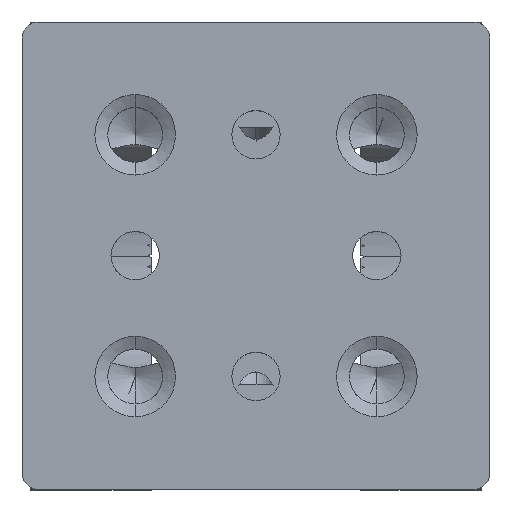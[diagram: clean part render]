
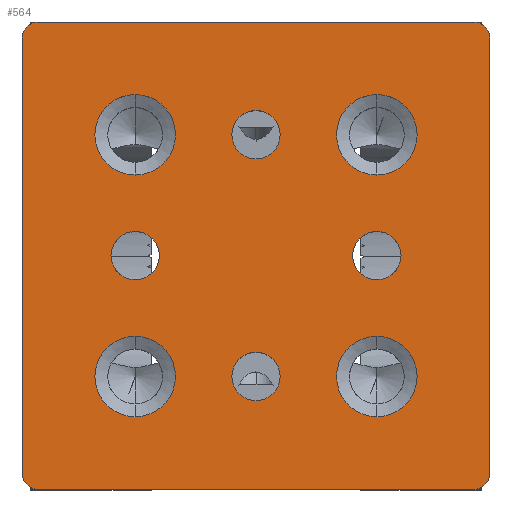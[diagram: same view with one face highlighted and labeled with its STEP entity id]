
A CAD part, top view. The second image highlights one B-rep face of the part: STEP entity #564.
In plain terms, the highlighted planar face has unit normal (0, 0, 1).
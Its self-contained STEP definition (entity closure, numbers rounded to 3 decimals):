
#77=CARTESIAN_POINT('Vertex',(-29.,-27.,30.)) ;
#80=CARTESIAN_POINT('Line Origine',(-29.,0.,30.)) ;
#84=CARTESIAN_POINT('Vertex',(-29.,27.,30.)) ;
#127=CARTESIAN_POINT('Vertex',(27.,29.,30.)) ;
#141=CARTESIAN_POINT('Vertex',(-27.,29.,30.)) ;
#144=CARTESIAN_POINT('Line Origine',(0.,29.,30.)) ;
#329=CARTESIAN_POINT('Vertex',(29.,27.,30.)) ;
#332=CARTESIAN_POINT('Line Origine',(29.,0.,30.)) ;
#336=CARTESIAN_POINT('Vertex',(29.,-27.,30.)) ;
#363=CARTESIAN_POINT('Vertex',(27.,-29.,30.)) ;
#366=CARTESIAN_POINT('Line Origine',(0.,-29.,30.)) ;
#370=CARTESIAN_POINT('Vertex',(-27.,-29.,30.)) ;
#385=CARTESIAN_POINT('Axis2P3D Location',(29.,29.,30.)) ;
#390=CARTESIAN_POINT('Axis2P3D Location',(27.,27.,30.)) ;
#395=CARTESIAN_POINT('Axis2P3D Location',(-27.,27.,30.)) ;
#400=CARTESIAN_POINT('Axis2P3D Location',(-27.,-27.,30.)) ;
#405=CARTESIAN_POINT('Axis2P3D Location',(27.,-27.,30.)) ;
#420=CARTESIAN_POINT('Axis2P3D Location',(-15.,-15.,30.)) ;
#424=CARTESIAN_POINT('Vertex',(-15.,-10.,30.)) ;
#426=CARTESIAN_POINT('Vertex',(-15.,-20.,30.)) ;
#429=CARTESIAN_POINT('Axis2P3D Location',(-15.,-15.,30.)) ;
#438=CARTESIAN_POINT('Axis2P3D Location',(15.,-15.,30.)) ;
#442=CARTESIAN_POINT('Vertex',(15.,-10.,30.)) ;
#444=CARTESIAN_POINT('Vertex',(15.,-20.,30.)) ;
#447=CARTESIAN_POINT('Axis2P3D Location',(15.,-15.,30.)) ;
#456=CARTESIAN_POINT('Axis2P3D Location',(-15.,15.,30.)) ;
#460=CARTESIAN_POINT('Vertex',(-15.,20.,30.)) ;
#462=CARTESIAN_POINT('Vertex',(-15.,10.,30.)) ;
#465=CARTESIAN_POINT('Axis2P3D Location',(-15.,15.,30.)) ;
#474=CARTESIAN_POINT('Axis2P3D Location',(15.,15.,30.)) ;
#478=CARTESIAN_POINT('Vertex',(15.,20.,30.)) ;
#480=CARTESIAN_POINT('Vertex',(15.,10.,30.)) ;
#483=CARTESIAN_POINT('Axis2P3D Location',(15.,15.,30.)) ;
#492=CARTESIAN_POINT('Axis2P3D Location',(0.,15.,30.)) ;
#496=CARTESIAN_POINT('Vertex',(0.,12.,30.)) ;
#498=CARTESIAN_POINT('Vertex',(0.,18.,30.)) ;
#501=CARTESIAN_POINT('Axis2P3D Location',(0.,15.,30.)) ;
#510=CARTESIAN_POINT('Axis2P3D Location',(0.,-15.,30.)) ;
#514=CARTESIAN_POINT('Vertex',(0.,-18.,30.)) ;
#516=CARTESIAN_POINT('Vertex',(0.,-12.,30.)) ;
#519=CARTESIAN_POINT('Axis2P3D Location',(0.,-15.,30.)) ;
#528=CARTESIAN_POINT('Axis2P3D Location',(-15.,0.,30.)) ;
#532=CARTESIAN_POINT('Vertex',(-15.,-3.,30.)) ;
#534=CARTESIAN_POINT('Vertex',(-15.,3.,30.)) ;
#537=CARTESIAN_POINT('Axis2P3D Location',(-15.,0.,30.)) ;
#546=CARTESIAN_POINT('Axis2P3D Location',(15.,0.,30.)) ;
#550=CARTESIAN_POINT('Vertex',(15.,-3.,30.)) ;
#552=CARTESIAN_POINT('Vertex',(15.,3.,30.)) ;
#555=CARTESIAN_POINT('Axis2P3D Location',(15.,0.,30.)) ;
#81=DIRECTION('Vector Direction',(0.,1.,0.)) ;
#145=DIRECTION('Vector Direction',(-1.,0.,0.)) ;
#333=DIRECTION('Vector Direction',(0.,1.,0.)) ;
#367=DIRECTION('Vector Direction',(-1.,0.,0.)) ;
#386=DIRECTION('Axis2P3D Direction',(0.,0.,-1.)) ;
#387=DIRECTION('Axis2P3D XDirection',(1.,0.,0.)) ;
#391=DIRECTION('Axis2P3D Direction',(0.,0.,-1.)) ;
#396=DIRECTION('Axis2P3D Direction',(0.,0.,-1.)) ;
#401=DIRECTION('Axis2P3D Direction',(0.,0.,-1.)) ;
#406=DIRECTION('Axis2P3D Direction',(0.,0.,-1.)) ;
#421=DIRECTION('Axis2P3D Direction',(0.,0.,-1.)) ;
#430=DIRECTION('Axis2P3D Direction',(0.,0.,-1.)) ;
#439=DIRECTION('Axis2P3D Direction',(0.,0.,-1.)) ;
#448=DIRECTION('Axis2P3D Direction',(0.,0.,-1.)) ;
#457=DIRECTION('Axis2P3D Direction',(0.,0.,-1.)) ;
#466=DIRECTION('Axis2P3D Direction',(0.,0.,-1.)) ;
#475=DIRECTION('Axis2P3D Direction',(0.,0.,-1.)) ;
#484=DIRECTION('Axis2P3D Direction',(0.,0.,-1.)) ;
#493=DIRECTION('Axis2P3D Direction',(0.,0.,-1.)) ;
#502=DIRECTION('Axis2P3D Direction',(0.,0.,-1.)) ;
#511=DIRECTION('Axis2P3D Direction',(0.,0.,-1.)) ;
#520=DIRECTION('Axis2P3D Direction',(0.,0.,-1.)) ;
#529=DIRECTION('Axis2P3D Direction',(0.,0.,-1.)) ;
#538=DIRECTION('Axis2P3D Direction',(0.,0.,-1.)) ;
#547=DIRECTION('Axis2P3D Direction',(0.,0.,-1.)) ;
#556=DIRECTION('Axis2P3D Direction',(0.,0.,-1.)) ;
#388=AXIS2_PLACEMENT_3D('Plane Axis2P3D',#385,#386,#387) ;
#392=AXIS2_PLACEMENT_3D('Circle Axis2P3D',#390,#391,$) ;
#397=AXIS2_PLACEMENT_3D('Circle Axis2P3D',#395,#396,$) ;
#402=AXIS2_PLACEMENT_3D('Circle Axis2P3D',#400,#401,$) ;
#407=AXIS2_PLACEMENT_3D('Circle Axis2P3D',#405,#406,$) ;
#422=AXIS2_PLACEMENT_3D('Circle Axis2P3D',#420,#421,$) ;
#431=AXIS2_PLACEMENT_3D('Circle Axis2P3D',#429,#430,$) ;
#440=AXIS2_PLACEMENT_3D('Circle Axis2P3D',#438,#439,$) ;
#449=AXIS2_PLACEMENT_3D('Circle Axis2P3D',#447,#448,$) ;
#458=AXIS2_PLACEMENT_3D('Circle Axis2P3D',#456,#457,$) ;
#467=AXIS2_PLACEMENT_3D('Circle Axis2P3D',#465,#466,$) ;
#476=AXIS2_PLACEMENT_3D('Circle Axis2P3D',#474,#475,$) ;
#485=AXIS2_PLACEMENT_3D('Circle Axis2P3D',#483,#484,$) ;
#494=AXIS2_PLACEMENT_3D('Circle Axis2P3D',#492,#493,$) ;
#503=AXIS2_PLACEMENT_3D('Circle Axis2P3D',#501,#502,$) ;
#512=AXIS2_PLACEMENT_3D('Circle Axis2P3D',#510,#511,$) ;
#521=AXIS2_PLACEMENT_3D('Circle Axis2P3D',#519,#520,$) ;
#530=AXIS2_PLACEMENT_3D('Circle Axis2P3D',#528,#529,$) ;
#539=AXIS2_PLACEMENT_3D('Circle Axis2P3D',#537,#538,$) ;
#548=AXIS2_PLACEMENT_3D('Circle Axis2P3D',#546,#547,$) ;
#557=AXIS2_PLACEMENT_3D('Circle Axis2P3D',#555,#556,$) ;
#411=ORIENTED_EDGE('',*,*,#338,.T.) ;
#412=ORIENTED_EDGE('',*,*,#394,.F.) ;
#413=ORIENTED_EDGE('',*,*,#148,.T.) ;
#414=ORIENTED_EDGE('',*,*,#399,.F.) ;
#415=ORIENTED_EDGE('',*,*,#86,.F.) ;
#416=ORIENTED_EDGE('',*,*,#404,.T.) ;
#417=ORIENTED_EDGE('',*,*,#372,.F.) ;
#418=ORIENTED_EDGE('',*,*,#409,.F.) ;
#435=ORIENTED_EDGE('',*,*,#428,.T.) ;
#436=ORIENTED_EDGE('',*,*,#433,.T.) ;
#453=ORIENTED_EDGE('',*,*,#446,.T.) ;
#454=ORIENTED_EDGE('',*,*,#451,.T.) ;
#471=ORIENTED_EDGE('',*,*,#464,.T.) ;
#472=ORIENTED_EDGE('',*,*,#469,.T.) ;
#489=ORIENTED_EDGE('',*,*,#482,.T.) ;
#490=ORIENTED_EDGE('',*,*,#487,.T.) ;
#507=ORIENTED_EDGE('',*,*,#500,.T.) ;
#508=ORIENTED_EDGE('',*,*,#505,.T.) ;
#525=ORIENTED_EDGE('',*,*,#518,.T.) ;
#526=ORIENTED_EDGE('',*,*,#523,.T.) ;
#543=ORIENTED_EDGE('',*,*,#536,.T.) ;
#544=ORIENTED_EDGE('',*,*,#541,.T.) ;
#561=ORIENTED_EDGE('',*,*,#554,.T.) ;
#562=ORIENTED_EDGE('',*,*,#559,.T.) ;
#437=FACE_BOUND('',#434,.T.) ;
#455=FACE_BOUND('',#452,.T.) ;
#473=FACE_BOUND('',#470,.T.) ;
#491=FACE_BOUND('',#488,.T.) ;
#509=FACE_BOUND('',#506,.T.) ;
#527=FACE_BOUND('',#524,.T.) ;
#545=FACE_BOUND('',#542,.T.) ;
#563=FACE_BOUND('',#560,.T.) ;
#82=VECTOR('Line Direction',#81,1.) ;
#146=VECTOR('Line Direction',#145,1.) ;
#334=VECTOR('Line Direction',#333,1.) ;
#368=VECTOR('Line Direction',#367,1.) ;
#564=ADVANCED_FACE('PartBody ( *SOL136078 - wsp *MASTER -  )',(#419,#437,#455,#473,#491,#509,#527,#545,#563),#389,.F.) ;
#393=CIRCLE('generated circle',#392,2.) ;
#398=CIRCLE('generated circle',#397,2.) ;
#403=CIRCLE('generated circle',#402,2.) ;
#408=CIRCLE('generated circle',#407,2.) ;
#423=CIRCLE('generated circle',#422,5.) ;
#432=CIRCLE('generated circle',#431,5.) ;
#441=CIRCLE('generated circle',#440,5.) ;
#450=CIRCLE('generated circle',#449,5.) ;
#459=CIRCLE('generated circle',#458,5.) ;
#468=CIRCLE('generated circle',#467,5.) ;
#477=CIRCLE('generated circle',#476,5.) ;
#486=CIRCLE('generated circle',#485,5.) ;
#495=CIRCLE('generated circle',#494,3.) ;
#504=CIRCLE('generated circle',#503,3.) ;
#513=CIRCLE('generated circle',#512,3.) ;
#522=CIRCLE('generated circle',#521,3.) ;
#531=CIRCLE('generated circle',#530,3.) ;
#540=CIRCLE('generated circle',#539,3.) ;
#549=CIRCLE('generated circle',#548,3.) ;
#558=CIRCLE('generated circle',#557,3.) ;
#86=EDGE_CURVE('',#78,#85,#83,.T.) ;
#148=EDGE_CURVE('',#128,#142,#147,.T.) ;
#338=EDGE_CURVE('',#337,#330,#335,.T.) ;
#372=EDGE_CURVE('',#364,#371,#369,.T.) ;
#394=EDGE_CURVE('',#128,#330,#393,.T.) ;
#399=EDGE_CURVE('',#85,#142,#398,.T.) ;
#404=EDGE_CURVE('',#78,#371,#403,.F.) ;
#409=EDGE_CURVE('',#337,#364,#408,.T.) ;
#428=EDGE_CURVE('',#425,#427,#423,.T.) ;
#433=EDGE_CURVE('',#427,#425,#432,.T.) ;
#446=EDGE_CURVE('',#443,#445,#441,.T.) ;
#451=EDGE_CURVE('',#445,#443,#450,.T.) ;
#464=EDGE_CURVE('',#461,#463,#459,.T.) ;
#469=EDGE_CURVE('',#463,#461,#468,.T.) ;
#482=EDGE_CURVE('',#479,#481,#477,.T.) ;
#487=EDGE_CURVE('',#481,#479,#486,.T.) ;
#500=EDGE_CURVE('',#497,#499,#495,.T.) ;
#505=EDGE_CURVE('',#499,#497,#504,.T.) ;
#518=EDGE_CURVE('',#515,#517,#513,.T.) ;
#523=EDGE_CURVE('',#517,#515,#522,.T.) ;
#536=EDGE_CURVE('',#533,#535,#531,.T.) ;
#541=EDGE_CURVE('',#535,#533,#540,.T.) ;
#554=EDGE_CURVE('',#551,#553,#549,.T.) ;
#559=EDGE_CURVE('',#553,#551,#558,.T.) ;
#410=EDGE_LOOP('',(#411,#412,#413,#414,#415,#416,#417,#418)) ;
#434=EDGE_LOOP('',(#435,#436)) ;
#452=EDGE_LOOP('',(#453,#454)) ;
#470=EDGE_LOOP('',(#471,#472)) ;
#488=EDGE_LOOP('',(#489,#490)) ;
#506=EDGE_LOOP('',(#507,#508)) ;
#524=EDGE_LOOP('',(#525,#526)) ;
#542=EDGE_LOOP('',(#543,#544)) ;
#560=EDGE_LOOP('',(#561,#562)) ;
#419=FACE_OUTER_BOUND('',#410,.T.) ;
#83=LINE('Line',#80,#82) ;
#147=LINE('Line',#144,#146) ;
#335=LINE('Line',#332,#334) ;
#369=LINE('Line',#366,#368) ;
#389=PLANE('Plane',#388) ;
#78=VERTEX_POINT('',#77) ;
#85=VERTEX_POINT('',#84) ;
#128=VERTEX_POINT('',#127) ;
#142=VERTEX_POINT('',#141) ;
#330=VERTEX_POINT('',#329) ;
#337=VERTEX_POINT('',#336) ;
#364=VERTEX_POINT('',#363) ;
#371=VERTEX_POINT('',#370) ;
#425=VERTEX_POINT('',#424) ;
#427=VERTEX_POINT('',#426) ;
#443=VERTEX_POINT('',#442) ;
#445=VERTEX_POINT('',#444) ;
#461=VERTEX_POINT('',#460) ;
#463=VERTEX_POINT('',#462) ;
#479=VERTEX_POINT('',#478) ;
#481=VERTEX_POINT('',#480) ;
#497=VERTEX_POINT('',#496) ;
#499=VERTEX_POINT('',#498) ;
#515=VERTEX_POINT('',#514) ;
#517=VERTEX_POINT('',#516) ;
#533=VERTEX_POINT('',#532) ;
#535=VERTEX_POINT('',#534) ;
#551=VERTEX_POINT('',#550) ;
#553=VERTEX_POINT('',#552) ;
